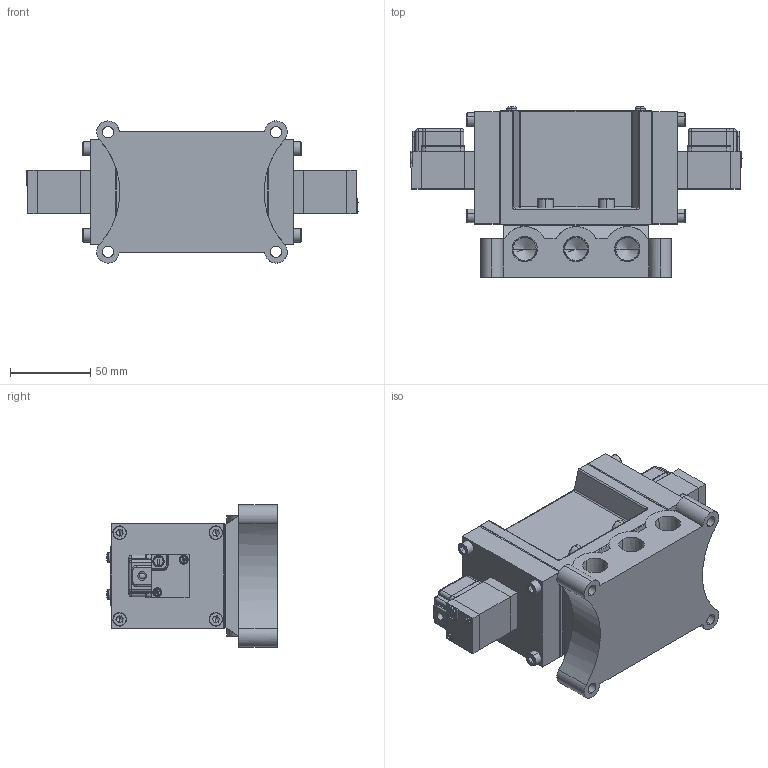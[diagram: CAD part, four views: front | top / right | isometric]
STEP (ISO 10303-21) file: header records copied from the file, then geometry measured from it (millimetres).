
FILE_DESCRIPTION (( 'STEP AP203' ), '1' );
FILE_NAME ('PMD2410#-03-#G#.STEP', '2016-03-09T06:25:12', ( 'Sam Lin' ), ( '' ), 'SwSTEP 2.0', 'SolidWorks 2013', '' );
FILE_SCHEMA (( 'CONFIG_CONTROL_DESIGN' ));
Length unit declared in the file: metre
Products named in the file (17): PMS2410-6; PM06-C3-M4_1; PMS2410-7; ISO 4762 M6 x 20; PMS2410-8; PM06-C1_1; PMD2410#-03-#G#; PM06-C4_1; PMS2410-1; PM06-C6-M3_1; PMS2410-2; PM06-C5_1; PMS2410-3; PM06-G1; PMS2410-4; PM10-MARK-2410; ISO 4762 M5 x 20
Assembly tree (39 placements, depth 2):
  PMD2410#-03-#G#
    PMS2410-1
    PMS2410-2
    PMS2410-3  x2
    PMS2410-4  x2
    ISO 4762 M5 x 20  x8
    PM06-C3-M4_1  x4
    ISO 4762 M6 x 20  x4
    PM06-C1_1  x2
    PM06-C4_1  x2
    PM06-C6-M3_1  x4
    PM06-C5_1  x2
    PM06-G1  x2
    PM10-MARK-2410
    PMS2410-6
    PMS2410-7
    PMS2410-8  x2
Bounding box: 207 x 106.35 x 88.61 mm (x, y, z)
Volume: 749425.1 mm3; surface area: 171329.1 mm2
Topology: 45 solids, 45 shells, 1138 faces, 2713 edges, 1669 vertices
Faces by surface type: plane 574, cylinder 278, cone 142, bspline 136, torus 8
Entity records: 20838 total; most frequent: CARTESIAN_POINT 6474, ORIENTED_EDGE 2464, DIRECTION 2441, EDGE_CURVE 1232, AXIS2_PLACEMENT_3D 884, VERTEX_POINT 787, LINE 673, VECTOR 673
